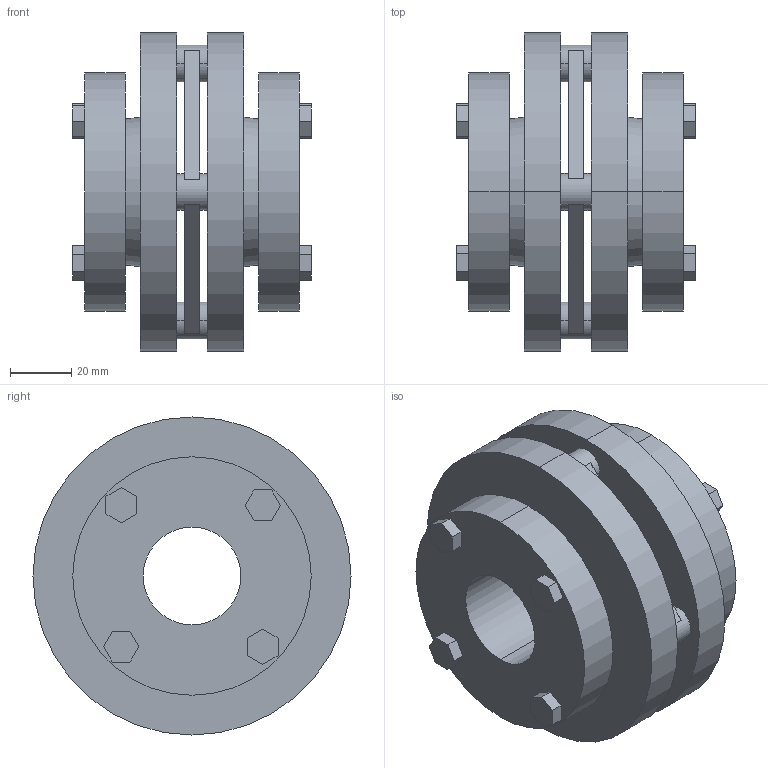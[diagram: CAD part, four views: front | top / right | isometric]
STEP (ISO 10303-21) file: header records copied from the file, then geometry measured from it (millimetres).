
FILE_DESCRIPTION (( 'STEP AP203' ), '1' );
FILE_NAME ('SW-104(D£p32~£p40).STEP', '2009-09-30T15:43:02', ( 'USER' ), ( 'HOME' ), 'SwSTEP 2.0', 'SolidWorks 2007', '' );
FILE_SCHEMA (( 'CONFIG_CONTROL_DESIGN' ));
Length unit declared in the file: millimetre
Products named in the file (1): SW-104(D｣p32~｣p40)
Bounding box: 78 x 104 x 104 mm (x, y, z)
Volume: 323762.1 mm3; surface area: 76128.8 mm2
Topology: 9 solids, 9 shells, 108 faces, 270 edges, 180 vertices
Faces by surface type: plane 78, cylinder 26, cone 4
Entity records: 3327 total; most frequent: DIRECTION 564, CARTESIAN_POINT 559, ORIENTED_EDGE 540, EDGE_CURVE 270, VECTOR 194, LINE 194, AXIS2_PLACEMENT_3D 185, VERTEX_POINT 180
